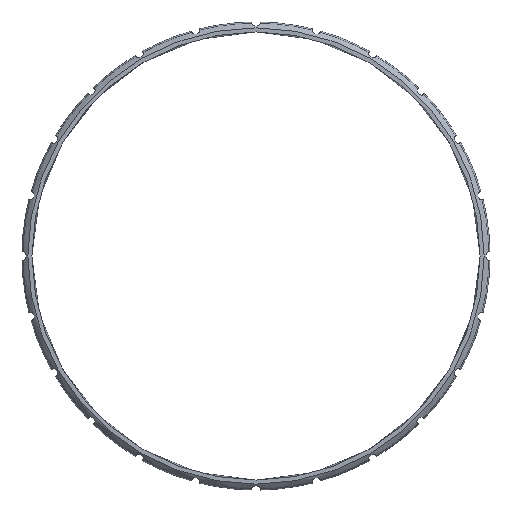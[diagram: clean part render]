
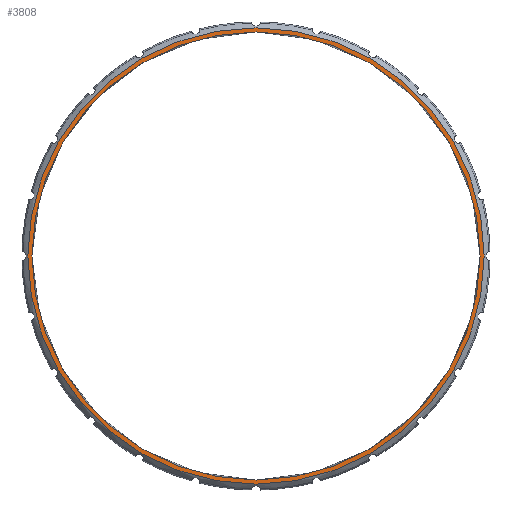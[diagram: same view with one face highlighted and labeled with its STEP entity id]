
A CAD part, front view. The second image highlights one B-rep face of the part: STEP entity #3808.
In plain terms, the highlighted planar face has unit normal (0, -1, 0).
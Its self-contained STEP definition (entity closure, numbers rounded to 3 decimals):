
#86 = AXIS2_PLACEMENT_3D ( 'NONE', #304, #683, #738 ) ;
#284 = EDGE_CURVE ( 'NONE', #3860, #3042, #4224, .T. ) ;
#304 = CARTESIAN_POINT ( 'NONE',  ( 0., 0.576, 0. ) ) ;
#435 = DIRECTION ( 'NONE',  ( 0., -1., 0. ) ) ;
#637 = VERTEX_POINT ( 'NONE', #731 ) ;
#674 = ORIENTED_EDGE ( 'NONE', *, *, #284, .F. ) ;
#683 = DIRECTION ( 'NONE',  ( 0., -1., 0. ) ) ;
#704 = CIRCLE ( 'NONE', #1897, 79.65 ) ;
#724 = VERTEX_POINT ( 'NONE', #966 ) ;
#731 = CARTESIAN_POINT ( 'NONE',  ( 0., 0.576, 79.65 ) ) ;
#738 = DIRECTION ( 'NONE',  ( 0., 0., -1. ) ) ;
#779 = AXIS2_PLACEMENT_3D ( 'NONE', #3801, #4971, #4566 ) ;
#834 = CARTESIAN_POINT ( 'NONE',  ( 78.2, 0.576, 0. ) ) ;
#904 = DIRECTION ( 'NONE',  ( 0., -1., 0. ) ) ;
#966 = CARTESIAN_POINT ( 'NONE',  ( 0., 0.576, -79.65 ) ) ;
#1031 = CIRCLE ( 'NONE', #779, 78.2 ) ;
#1262 = FACE_BOUND ( 'NONE', #5143, .T. ) ;
#1441 = EDGE_CURVE ( 'NONE', #637, #724, #3392, .T. ) ;
#1675 = CARTESIAN_POINT ( 'NONE',  ( 0., 0.576, 0. ) ) ;
#1897 = AXIS2_PLACEMENT_3D ( 'NONE', #4891, #904, #2518 ) ;
#2083 = DIRECTION ( 'NONE',  ( 0., 0., -1. ) ) ;
#2366 = EDGE_CURVE ( 'NONE', #3042, #3860, #1031, .T. ) ;
#2476 = PLANE ( 'NONE',  #3069 ) ;
#2518 = DIRECTION ( 'NONE',  ( 0., 0., -1. ) ) ;
#2616 = EDGE_LOOP ( 'NONE', ( #4102, #4471 ) ) ;
#3042 = VERTEX_POINT ( 'NONE', #4454 ) ;
#3055 = AXIS2_PLACEMENT_3D ( 'NONE', #1675, #5197, #4439 ) ;
#3069 = AXIS2_PLACEMENT_3D ( 'NONE', #834, #435, #2083 ) ;
#3142 = ORIENTED_EDGE ( 'NONE', *, *, #2366, .F. ) ;
#3392 = CIRCLE ( 'NONE', #3055, 79.65 ) ;
#3801 = CARTESIAN_POINT ( 'NONE',  ( 0., 0.576, 0. ) ) ;
#3808 = ADVANCED_FACE ( 'NONE', ( #4521, #1262 ), #2476, .T. ) ;
#3860 = VERTEX_POINT ( 'NONE', #4629 ) ;
#4102 = ORIENTED_EDGE ( 'NONE', *, *, #4201, .T. ) ;
#4201 = EDGE_CURVE ( 'NONE', #724, #637, #704, .T. ) ;
#4224 = CIRCLE ( 'NONE', #86, 78.2 ) ;
#4439 = DIRECTION ( 'NONE',  ( 0., 0., -1. ) ) ;
#4454 = CARTESIAN_POINT ( 'NONE',  ( 0., 0.576, -78.2 ) ) ;
#4471 = ORIENTED_EDGE ( 'NONE', *, *, #1441, .T. ) ;
#4521 = FACE_OUTER_BOUND ( 'NONE', #2616, .T. ) ;
#4566 = DIRECTION ( 'NONE',  ( 0., 0., -1. ) ) ;
#4629 = CARTESIAN_POINT ( 'NONE',  ( 0., 0.576, 78.2 ) ) ;
#4891 = CARTESIAN_POINT ( 'NONE',  ( 0., 0.576, 0. ) ) ;
#4971 = DIRECTION ( 'NONE',  ( 0., -1., 0. ) ) ;
#5143 = EDGE_LOOP ( 'NONE', ( #3142, #674 ) ) ;
#5197 = DIRECTION ( 'NONE',  ( 0., -1., 0. ) ) ;
